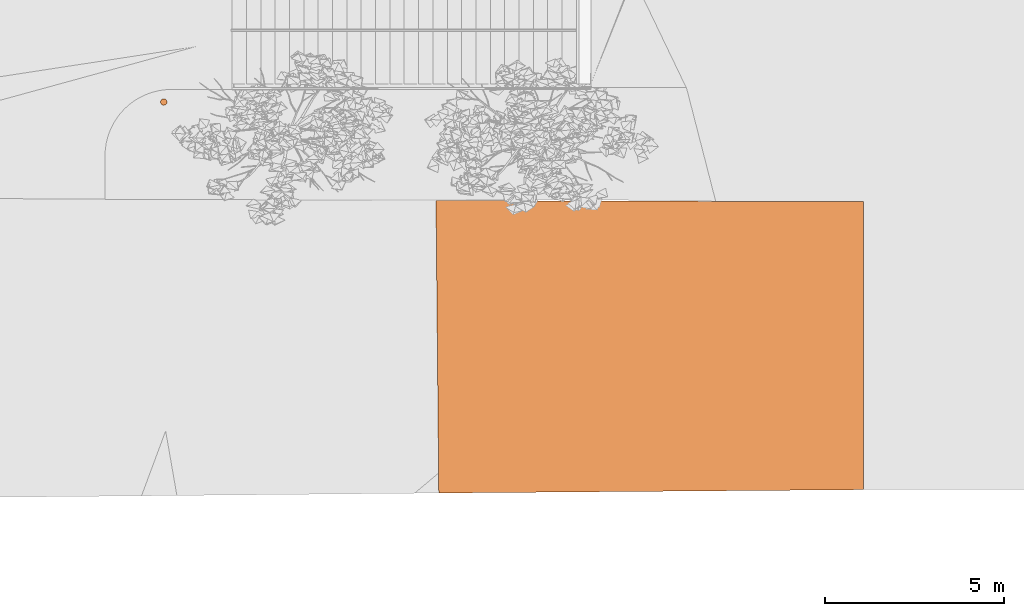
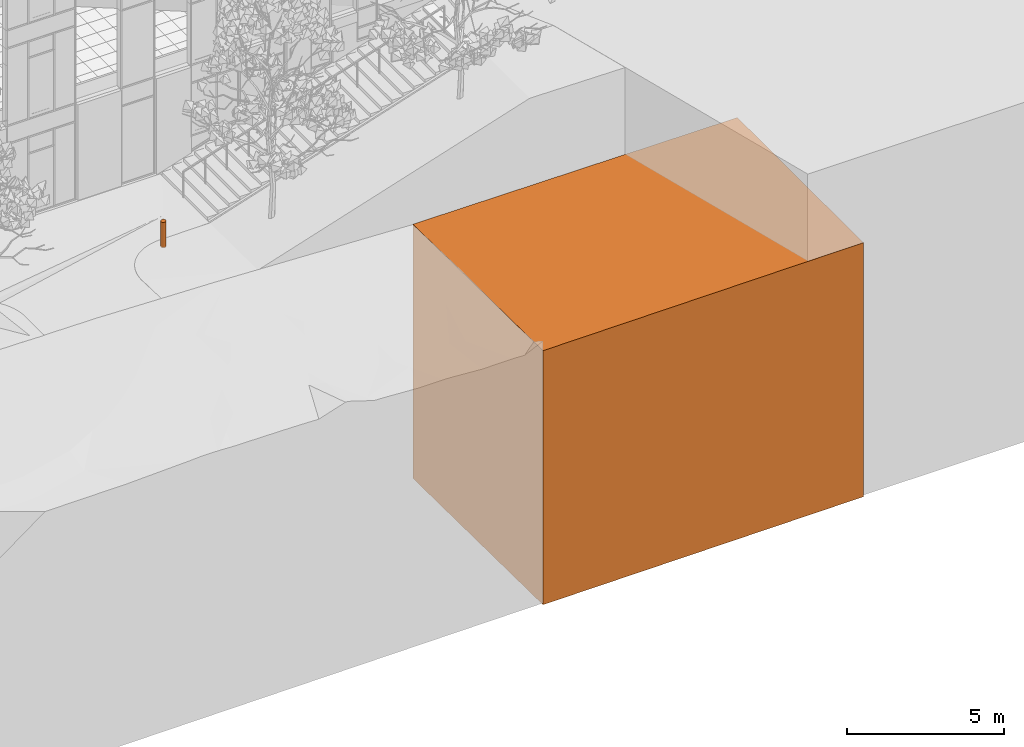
# One storey, part 236 of 246: 2 proxies.
"""IFC2X3 building model written with IfcOpenShell, lengths in millimetres."""

from ifc_helpers import new_model, entity, si_unit, converted_unit, derived_unit, money_unit, direction, frame, origin_with_axes, place, context, subcontext, project, spatial, faceted_brep, material, type_object, element, save


model = new_model("IFC2X3")

# Units and contexts
model_context = context("Model", 3, precision=0.01, world=origin_with_axes(), true_north=direction((0.0, 1.0)))
body_context = subcontext(model_context, "Body", "Model", "MODEL_VIEW")
ifc_project = project(units=[si_unit("LENGTHUNIT", "METRE", prefix="MILLI"), si_unit("AREAUNIT", "SQUARE_METRE"), si_unit("VOLUMEUNIT", "CUBIC_METRE"), converted_unit("PLANEANGLEUNIT", "DEGREE", entity("IfcPlaneAngleMeasure", 0.0174532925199), si_unit("PLANEANGLEUNIT", "RADIAN"), dimensions=[0, 0, 0, 0, 0, 0, 0]), si_unit("SOLIDANGLEUNIT", "STERADIAN"), money_unit("EUR"), converted_unit("TIMEUNIT", "Year", entity("IfcTimeMeasure", 31556926.0), si_unit("TIMEUNIT", "SECOND"), dimensions=[0, 0, 1, 0, 0, 0, 0]), si_unit("MASSUNIT", "GRAM", prefix="KILO"), si_unit("THERMODYNAMICTEMPERATUREUNIT", "DEGREE_CELSIUS"), si_unit("LUMINOUSINTENSITYUNIT", "LUMEN"), si_unit("ENERGYUNIT", "JOULE", prefix="MEGA"), derived_unit("THERMALCONDUCTANCEUNIT", [(si_unit("POWERUNIT", "WATT"), 1), (si_unit("LENGTHUNIT", "METRE"), -1), (si_unit("THERMODYNAMICTEMPERATUREUNIT", "KELVIN"), -1)]), derived_unit("SPECIFICHEATCAPACITYUNIT", [(si_unit("ENERGYUNIT", "JOULE"), 1), (si_unit("MASSUNIT", "GRAM", prefix="KILO"), -1), (si_unit("THERMODYNAMICTEMPERATUREUNIT", "KELVIN"), -1)]), derived_unit("MASSDENSITYUNIT", [(si_unit("MASSUNIT", "GRAM", prefix="KILO"), 1), (si_unit("VOLUMEUNIT", "CUBIC_METRE"), -1)])], contexts=[model_context])

# Site, building, storey
site_placement = place(None, origin_with_axes())
site = spatial("IfcSite", under=ifc_project, at=site_placement, Name="L.Koidula tn 11b", CompositionType="ELEMENT")
building_placement = place(site_placement, origin_with_axes())
building = spatial("IfcBuilding", under=site, at=building_placement, Name="Rakvere Riigigümnaasium", CompositionType="ELEMENT")
storey_placement = place(building_placement, origin_with_axes())
storey = spatial("IfcBuildingStorey", under=building, at=storey_placement, Name="1.korrus 0,00", CompositionType="ELEMENT", Elevation=0.0)

# Proxies
ifc_material_1 = material(Name="Asfalt")
building_element_proxy_type_1 = type_object("IfcBuildingElementProxyType", Name="Asfalt", PredefinedType="NOTDEFINED")
proxy_1_placement = place(storey_placement, frame((100238.057243, -9415.19422125, -10064.3205974), z_axis=(0.0, 0.0, 1.0), x_axis=(1.0, 0.0, 0.0)))
element("IfcBuildingElementProxy", 1, at=proxy_1_placement, inside=storey, type_object=building_element_proxy_type_1, material=ifc_material_1, Name="Sõidutee", context=body_context, shape_type="Brep", body=[
    faceted_brep([(0.0, 8156.03683614, 9880.0), (77.6326992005, 0.0, 9880.0), (11919.096916, 93.2085650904, 9880.0), (11919.096916, 8123.06815003, 9880.0), (77.6326992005, 0.0, 0.0), (0.0, 8156.03683614, 0.0), (11919.096916, 93.2085650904, 0.0), (11919.096916, 8123.06815003, 0.0)], [[[0, 1, 2, 3]], [[4, 1, 0, 5]], [[6, 2, 1, 4]], [[7, 3, 2, 6]], [[5, 0, 3, 7]], [[7, 6, 4, 5]]]),
])
ifc_material_2 = material(Name="Alumiinium (RAL 7026)")
building_element_proxy_type_2 = type_object("IfcBuildingElementProxyType", Name="Alumiinium (RAL 7026) D180", PredefinedType="NOTDEFINED")
proxy_2_placement = place(storey_placement, frame((92648.0247191, 1486.45341722, -58.1746114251), z_axis=(0.0, 0.0, 1.0), x_axis=(1.0, 0.0, 0.0)))
element("IfcBuildingElementProxy", 2, at=proxy_2_placement, inside=storey, type_object=building_element_proxy_type_2, material=ifc_material_2, Name="Pollar valgusti", context=body_context, shape_type="Brep", body=[
    faceted_brep([(-90.0, 0.0, 1000.0), (-90.0, 0.0, 0.0), (-86.933324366, -23.2937140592, 0.0), (-86.933324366, -23.2937140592, 1000.0), (-86.933324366, 23.2937140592, 1000.0), (-86.933324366, 23.2937140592, 0.0), (-77.9422863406, 45.0, 0.0), (-63.6396103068, 63.6396103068, 0.0), (-45.0, 77.9422863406, 0.0), (-23.2937140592, 86.933324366, 0.0), (0.0, 90.0, 0.0), (23.2937140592, 86.933324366, 0.0), (45.0, 77.9422863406, 0.0), (63.6396103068, 63.6396103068, 0.0), (77.9422863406, 45.0, 0.0), (86.933324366, 23.2937140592, 0.0), (90.0, 0.0, 0.0), (86.933324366, -23.2937140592, 0.0), (77.9422863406, -45.0, 0.0), (63.6396103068, -63.6396103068, 0.0), (45.0, -77.9422863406, 0.0), (23.2937140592, -86.933324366, 0.0), (0.0, -90.0, 0.0), (-23.2937140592, -86.933324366, 0.0), (-45.0, -77.9422863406, 0.0), (-63.6396103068, -63.6396103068, 0.0), (-77.9422863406, -45.0, 0.0), (-77.9422863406, -45.0, 1000.0), (-63.6396103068, -63.6396103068, 1000.0), (-45.0, -77.9422863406, 1000.0), (-23.2937140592, -86.933324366, 1000.0), (0.0, -90.0, 1000.0), (23.2937140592, -86.933324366, 1000.0), (45.0, -77.9422863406, 1000.0), (63.6396103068, -63.6396103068, 1000.0), (77.9422863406, -45.0, 1000.0), (86.933324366, -23.2937140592, 1000.0), (90.0, 0.0, 1000.0), (86.933324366, 23.2937140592, 1000.0), (77.9422863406, 45.0, 1000.0), (63.6396103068, 63.6396103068, 1000.0), (45.0, 77.9422863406, 1000.0), (23.2937140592, 86.933324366, 1000.0), (0.0, 90.0, 1000.0), (-23.2937140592, 86.933324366, 1000.0), (-45.0, 77.9422863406, 1000.0), (-63.6396103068, 63.6396103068, 1000.0), (-77.9422863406, 45.0, 1000.0)], [[[0, 1, 2, 3]], [[4, 5, 1, 0]], [[2, 1, 5, 6, 7, 8, 9, 10, 11, 12, 13, 14, 15, 16, 17, 18, 19, 20, 21, 22, 23, 24, 25, 26]], [[3, 2, 26, 27]], [[4, 0, 3, 27, 28, 29, 30, 31, 32, 33, 34, 35, 36, 37, 38, 39, 40, 41, 42, 43, 44, 45, 46, 47]], [[47, 6, 5, 4]], [[46, 7, 6, 47]], [[45, 8, 7, 46]], [[44, 9, 8, 45]], [[43, 10, 9, 44]], [[42, 11, 10, 43]], [[41, 12, 11, 42]], [[40, 13, 12, 41]], [[39, 14, 13, 40]], [[38, 15, 14, 39]], [[37, 16, 15, 38]], [[36, 17, 16, 37]], [[35, 18, 17, 36]], [[34, 19, 18, 35]], [[33, 20, 19, 34]], [[32, 21, 20, 33]], [[31, 22, 21, 32]], [[30, 23, 22, 31]], [[29, 24, 23, 30]], [[28, 25, 24, 29]], [[27, 26, 25, 28]]]),
])

save(model, "model.ifc")
